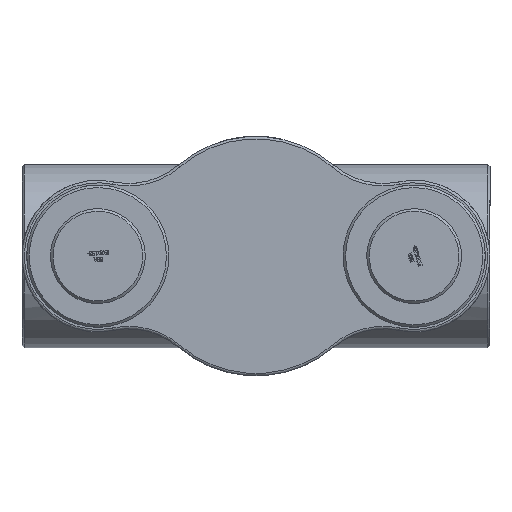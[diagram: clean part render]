
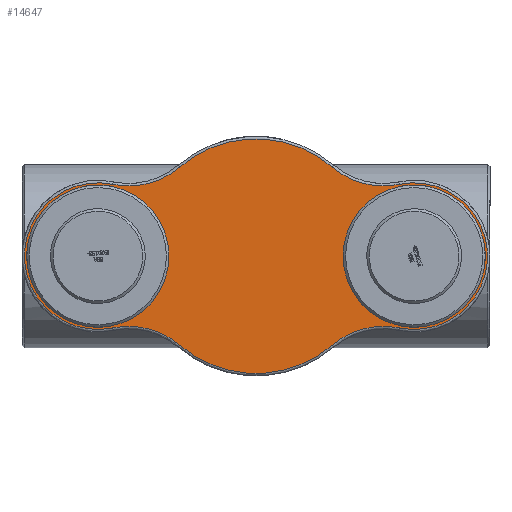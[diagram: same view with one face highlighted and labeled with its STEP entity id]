
A CAD part, front view. The second image highlights one B-rep face of the part: STEP entity #14647.
In plain terms, the highlighted planar face has unit normal (0, -1, 0) as drawn and (0, 0, -1) by its records, which use the part's own axes.
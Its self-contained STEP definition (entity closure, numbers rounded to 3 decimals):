
#3850=PLANE('',#15585);
#4270=FACE_BOUND('',#5217,.T.);
#4271=FACE_BOUND('',#5218,.T.);
#4367=FACE_OUTER_BOUND('',#5216,.T.);
#5216=EDGE_LOOP('',(#10114,#10115,#10116,#10117,#10118,#10119,#10120,#10121));
#5217=EDGE_LOOP('',(#10122));
#5218=EDGE_LOOP('',(#10123));
#6160=CIRCLE('',#15584,104.);
#6161=CIRCLE('',#15586,147.);
#6162=CIRCLE('',#15587,157.);
#6163=CIRCLE('',#15588,235.);
#6164=CIRCLE('',#15589,157.);
#6165=CIRCLE('',#15590,147.);
#6166=CIRCLE('',#15591,157.);
#6167=CIRCLE('',#15592,235.);
#6168=CIRCLE('',#15593,157.);
#6169=CIRCLE('',#15594,104.);
#6352=VERTEX_POINT('',#19125);
#6353=VERTEX_POINT('',#19128);
#6354=VERTEX_POINT('',#19129);
#6355=VERTEX_POINT('',#19131);
#6356=VERTEX_POINT('',#19133);
#6357=VERTEX_POINT('',#19135);
#6358=VERTEX_POINT('',#19137);
#6359=VERTEX_POINT('',#19139);
#6360=VERTEX_POINT('',#19141);
#6361=VERTEX_POINT('',#19144);
#7856=EDGE_CURVE('',#6352,#6352,#6160,.T.);
#7857=EDGE_CURVE('',#6353,#6354,#6161,.T.);
#7858=EDGE_CURVE('',#6355,#6353,#6162,.T.);
#7859=EDGE_CURVE('',#6356,#6355,#6163,.T.);
#7860=EDGE_CURVE('',#6357,#6356,#6164,.T.);
#7861=EDGE_CURVE('',#6358,#6357,#6165,.T.);
#7862=EDGE_CURVE('',#6359,#6358,#6166,.T.);
#7863=EDGE_CURVE('',#6360,#6359,#6167,.T.);
#7864=EDGE_CURVE('',#6354,#6360,#6168,.T.);
#7865=EDGE_CURVE('',#6361,#6361,#6169,.T.);
#10114=ORIENTED_EDGE('',*,*,#7857,.F.);
#10115=ORIENTED_EDGE('',*,*,#7858,.F.);
#10116=ORIENTED_EDGE('',*,*,#7859,.F.);
#10117=ORIENTED_EDGE('',*,*,#7860,.F.);
#10118=ORIENTED_EDGE('',*,*,#7861,.F.);
#10119=ORIENTED_EDGE('',*,*,#7862,.F.);
#10120=ORIENTED_EDGE('',*,*,#7863,.F.);
#10121=ORIENTED_EDGE('',*,*,#7864,.F.);
#10122=ORIENTED_EDGE('',*,*,#7865,.F.);
#10123=ORIENTED_EDGE('',*,*,#7856,.F.);
#14647=ADVANCED_FACE('',(#4367,#4270,#4271),#3850,.F.);
#15584=AXIS2_PLACEMENT_3D('',#19126,#16329,#16330);
#15585=AXIS2_PLACEMENT_3D('',#19127,#16331,#16332);
#15586=AXIS2_PLACEMENT_3D('',#19130,#16333,#16334);
#15587=AXIS2_PLACEMENT_3D('',#19132,#16335,#16336);
#15588=AXIS2_PLACEMENT_3D('',#19134,#16337,#16338);
#15589=AXIS2_PLACEMENT_3D('',#19136,#16339,#16340);
#15590=AXIS2_PLACEMENT_3D('',#19138,#16341,#16342);
#15591=AXIS2_PLACEMENT_3D('',#19140,#16343,#16344);
#15592=AXIS2_PLACEMENT_3D('',#19142,#16345,#16346);
#15593=AXIS2_PLACEMENT_3D('',#19143,#16347,#16348);
#15594=AXIS2_PLACEMENT_3D('',#19145,#16349,#16350);
#16329=DIRECTION('center_axis',(0.,0.,-1.));
#16330=DIRECTION('ref_axis',(1.,0.,0.));
#16331=DIRECTION('center_axis',(0.,0.,1.));
#16332=DIRECTION('ref_axis',(1.,0.,0.));
#16333=DIRECTION('center_axis',(0.,0.,1.));
#16334=DIRECTION('ref_axis',(-1.,0.,0.));
#16335=DIRECTION('center_axis',(0.,0.,-1.));
#16336=DIRECTION('ref_axis',(0.249,-0.968,0.));
#16337=DIRECTION('center_axis',(0.,0.,1.));
#16338=DIRECTION('ref_axis',(0.,1.,0.));
#16339=DIRECTION('center_axis',(0.,0.,-1.));
#16340=DIRECTION('ref_axis',(-0.249,-0.968,0.));
#16341=DIRECTION('center_axis',(0.,0.,1.));
#16342=DIRECTION('ref_axis',(1.,0.,0.));
#16343=DIRECTION('center_axis',(0.,0.,-1.));
#16344=DIRECTION('ref_axis',(-0.249,0.968,0.));
#16345=DIRECTION('center_axis',(0.,0.,1.));
#16346=DIRECTION('ref_axis',(0.,-1.,0.));
#16347=DIRECTION('center_axis',(0.,0.,-1.));
#16348=DIRECTION('ref_axis',(0.249,0.968,0.));
#16349=DIRECTION('center_axis',(0.,0.,-1.));
#16350=DIRECTION('ref_axis',(1.,0.,0.));
#19125=CARTESIAN_POINT('',(213.,0.,0.));
#19126=CARTESIAN_POINT('Origin',(317.,0.,0.));
#19127=CARTESIAN_POINT('Origin',(0.,0.,0.));
#19128=CARTESIAN_POINT('',(-287.071,143.921,0.));
#19129=CARTESIAN_POINT('',(-287.071,-143.921,0.));
#19130=CARTESIAN_POINT('Origin',(-317.,0.,0.));
#19131=CARTESIAN_POINT('',(-152.933,178.428,0.));
#19132=CARTESIAN_POINT('Origin',(-255.106,297.632,0.));
#19133=CARTESIAN_POINT('',(152.933,178.428,0.));
#19134=CARTESIAN_POINT('Origin',(0.,0.,0.));
#19135=CARTESIAN_POINT('',(287.071,143.921,0.));
#19136=CARTESIAN_POINT('Origin',(255.106,297.632,0.));
#19137=CARTESIAN_POINT('',(287.071,-143.921,0.));
#19138=CARTESIAN_POINT('Origin',(317.,0.,0.));
#19139=CARTESIAN_POINT('',(152.933,-178.428,0.));
#19140=CARTESIAN_POINT('Origin',(255.106,-297.632,0.));
#19141=CARTESIAN_POINT('',(-152.933,-178.428,0.));
#19142=CARTESIAN_POINT('Origin',(0.,0.,0.));
#19143=CARTESIAN_POINT('Origin',(-255.106,-297.632,0.));
#19144=CARTESIAN_POINT('',(-421.,0.,0.));
#19145=CARTESIAN_POINT('Origin',(-317.,0.,0.));
